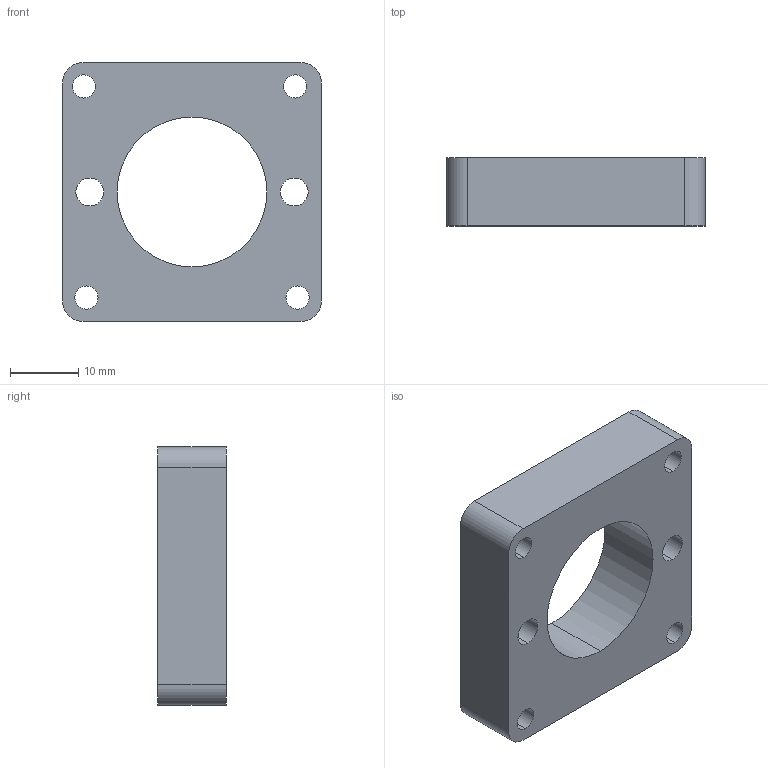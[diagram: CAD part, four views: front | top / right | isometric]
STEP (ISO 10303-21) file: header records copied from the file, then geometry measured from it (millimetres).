
FILE_DESCRIPTION (( 'STEP AP214' ), '1' );
FILE_NAME ('Soporte de guia superior.STEP', '2019-05-12T01:54:33', ( '' ), ( '' ), 'SwSTEP 2.0', 'SolidWorks 2018', '' );
FILE_SCHEMA (( 'AUTOMOTIVE_DESIGN' ));
Length unit declared in the file: millimetre
Products named in the file (1): Soporte de guia superior
Bounding box: 38 x 10 x 38 mm (x, y, z)
Volume: 9934.2 mm3; surface area: 4831.4 mm2
Topology: 1 solids, 1 shells, 24 faces, 66 edges, 44 vertices
Faces by surface type: cylinder 18, plane 6
Entity records: 848 total; most frequent: DIRECTION 152, CARTESIAN_POINT 135, ORIENTED_EDGE 132, EDGE_CURVE 66, AXIS2_PLACEMENT_3D 61, VERTEX_POINT 44, EDGE_LOOP 38, CIRCLE 36
